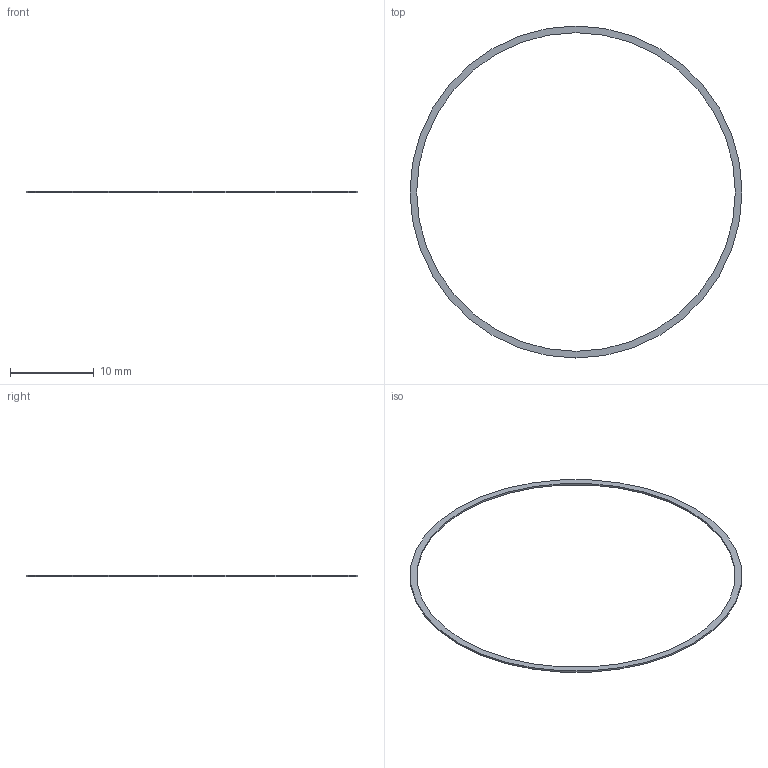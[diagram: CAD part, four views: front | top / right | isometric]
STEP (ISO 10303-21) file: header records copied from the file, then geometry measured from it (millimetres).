
FILE_DESCRIPTION(('Open CASCADE Model'),'2;1');
FILE_NAME('C27_R2_Speaker_Frame_Gasket_FREE_STATE','2026-09-10T02:58:45' ,('Author'),('Open CASCADE'),'Open CASCADE STEP processor 7.9', 'build123d','Unknown');
FILE_SCHEMA(('AUTOMOTIVE_DESIGN { 1 0 10303 214 1 1 1 1 }'));
Length unit declared in the file: millimetre
Products named in the file (1): C27_R2_Speaker_Frame_Gasket_FREE_STATE
Bounding box: 39.6 x 39.6 x 0.2 mm (x, y, z)
Volume: 19.5 mm3; surface area: 243.8 mm2
Topology: 1 solids, 1 shells, 4 faces, 6 edges, 4 vertices
Faces by surface type: cylinder 2, plane 2
Full cylindrical faces by diameter (mm): 38 x1, 39.6 x1
Entity records: 197 total; most frequent: DIRECTION 32, CARTESIAN_POINT 27, ORIENTED_EDGE 12, PCURVE 12, DEFINITIONAL_REPRESENTATION 12, LINE 10, VECTOR 10, AXIS2_PLACEMENT_3D 9
